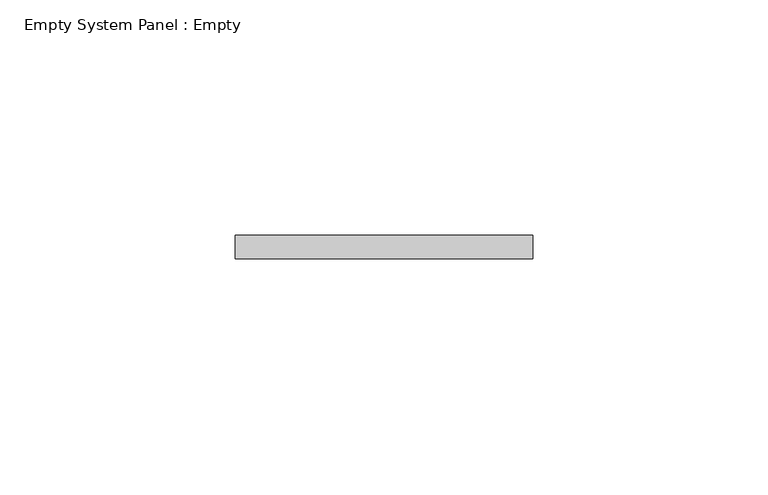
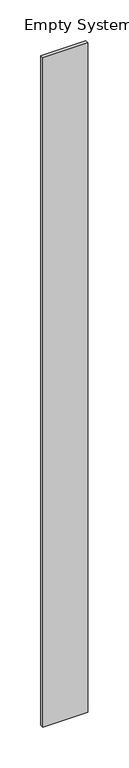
"""IFC4 building model written with IfcOpenShell, lengths in millimetres: plate geometry, Empty System Panel : Empty."""

import ifcopenshell
import ifcopenshell.guid

model = None  # the IFC model being written
_history = None  # IfcOwnerHistory: only IFC2X3 demands one
_inside = {}  # id of a spatial element -> (the spatial element, [elements in it])
_under = {}  # id of a project, library or spatial element -> (it, [spatial elements below it])
_declared = {}  # id of a project -> (the project, [libraries it declares])
_typed = {}  # id of a type object -> (the type object, [elements of that type])
_made_of = {}  # id of a material, layer set ... -> (it, [elements and type objects made of it])


def new_model(schema):
    """Start an empty IFC model of exactly this schema.

    Asked for "IFC4X3", IfcOpenShell would pick the latest addendum, in which some entities
    have other attributes; the version numbers below select the first issue.
    IFC2X3 requires an IfcOwnerHistory on every rooted entity: one is made here for all.
    """
    global model, _history
    if schema == "IFC4X3":
        model = ifcopenshell.file(schema_version=(4, 3, 0, 0))
    else:
        model = ifcopenshell.file(schema=schema)
    _inside.clear()
    _under.clear()
    _declared.clear()
    _typed.clear()
    _made_of.clear()
    _history = None
    if model.schema == "IFC2X3":
        org = make("IfcOrganization", Name="unknown")
        user = make(
            "IfcPersonAndOrganization",
            ThePerson=make("IfcPerson", FamilyName="unknown"),
            TheOrganization=org,
        )
        app = make(
            "IfcApplication",
            ApplicationDeveloper=org,
            Version="unknown",
            ApplicationFullName="unknown",
            ApplicationIdentifier="unknown",
        )
        _history = make(
            "IfcOwnerHistory",
            OwningUser=user,
            OwningApplication=app,
            ChangeAction="ADDED",
            CreationDate=0,
        )
    return model


def make(cls, **values):
    """One entity of the class cls with the attributes given. An attribute that is None is left unset."""
    return model.create_entity(
        cls, **{name: value for name, value in values.items() if value is not None}
    )


def rooted(cls, **values):
    """An entity with a GlobalId (a new one), such as an element, a storey or a relation."""
    return make(cls, GlobalId=ifcopenshell.guid.new(), OwnerHistory=_history, **values)


def si_unit(unit_type, name, prefix=None):
    """IfcSIUnit, for example si_unit("LENGTHUNIT", "METRE", prefix="MILLI")."""
    return make("IfcSIUnit", UnitType=unit_type, Prefix=prefix, Name=name)


def assignment(units):
    """IfcUnitAssignment: the units of a project."""
    return None if units is None else make("IfcUnitAssignment", Units=units)


def point(xyz):
    """IfcCartesianPoint."""
    return None if xyz is None else make("IfcCartesianPoint", Coordinates=xyz)


def direction(xyz):
    """IfcDirection."""
    return None if xyz is None else make("IfcDirection", DirectionRatios=xyz)


def frame(location, z_axis=None, x_axis=None):
    """IfcAxis2Placement3D, a coordinate frame: its origin and axes. An axis left out is left unset."""
    return make(
        "IfcAxis2Placement3D",
        Location=point(location),
        Axis=direction(z_axis),
        RefDirection=direction(x_axis),
    )


def origin():
    """The frame at (0, 0, 0) with its axes left unset."""
    return frame((0.0, 0.0, 0.0))


def origin_with_axes():
    """The frame at (0, 0, 0) with the z axis (0, 0, 1) and the x axis (1, 0, 0) written out."""
    return frame((0.0, 0.0, 0.0), z_axis=(0.0, 0.0, 1.0), x_axis=(1.0, 0.0, 0.0))


def place(relative_to, where):
    """IfcLocalPlacement: puts the frame where relative to a parent placement (None: the world)."""
    return make(
        "IfcLocalPlacement", PlacementRelTo=relative_to, RelativePlacement=where
    )


def context(
    kind, dimensions, precision=None, world=None, true_north=None, identifier=None
):
    """IfcGeometricRepresentationContext, for example the 3D "Model" context."""
    return make(
        "IfcGeometricRepresentationContext",
        ContextIdentifier=identifier,
        ContextType=kind,
        CoordinateSpaceDimension=dimensions,
        Precision=precision,
        WorldCoordinateSystem=world,
        TrueNorth=true_north,
    )


def project(units=None, contexts=None):
    """IfcProject with its units and contexts."""
    return rooted(
        "IfcProject",
        Name="project",
        RepresentationContexts=contexts,
        UnitsInContext=assignment(units),
    )


def spatial(cls, under=None, at=None, **own):
    """A site, building, storey or space (cls), placed at a placement, below another one or the project."""
    s = rooted(cls, ObjectPlacement=at, **own)
    if under is not None:
        _under.setdefault(under.id(), (under, []))[1].append(s)
    return s


def polyline(points):
    """IfcPolyline through the points."""
    return make("IfcPolyline", Points=[point(p) for p in points])


def outline(outer, holes=None, kind="AREA"):
    """IfcArbitraryClosedProfileDef: a profile drawn as a closed curve; with holes, ...WithVoids."""
    if holes is None:
        return make("IfcArbitraryClosedProfileDef", ProfileType=kind, OuterCurve=outer)
    return make(
        "IfcArbitraryProfileDefWithVoids",
        ProfileType=kind,
        OuterCurve=outer,
        InnerCurves=holes,
    )


def extrude(swept, where, along, depth):
    """IfcExtrudedAreaSolid: the profile swept, set in the frame where, extruded along a direction by depth."""
    return make(
        "IfcExtrudedAreaSolid",
        SweptArea=swept,
        Position=where,
        ExtrudedDirection=direction(along),
        Depth=depth,
    )


def shape(context_of_items, identifier, shape_type, items):
    """IfcShapeRepresentation: the items that make up one representation, for example the "Body"."""
    return make(
        "IfcShapeRepresentation",
        ContextOfItems=context_of_items,
        RepresentationIdentifier=identifier,
        RepresentationType=shape_type,
        Items=items,
    )


def source(mapping_origin, context_of_items, identifier, shape_type, items):
    """IfcRepresentationMap: a shape defined once, which mapped items show again and again."""
    return make(
        "IfcRepresentationMap",
        MappingOrigin=mapping_origin,
        MappedRepresentation=shape(context_of_items, identifier, shape_type, items),
    )


def transform(
    local_origin,
    x_axis=None,
    y_axis=None,
    z_axis=None,
    scale=None,
    scale2=None,
    scale3=None,
    uniform=True,
):
    """IfcCartesianTransformationOperator3D, or its non-uniform kind. x_axis, y_axis, z_axis: its Axis1, 2, 3."""
    if uniform:
        return make(
            "IfcCartesianTransformationOperator3D",
            Axis1=direction(x_axis),
            Axis2=direction(y_axis),
            LocalOrigin=point(local_origin),
            Scale=scale,
            Axis3=direction(z_axis),
        )
    return make(
        "IfcCartesianTransformationOperator3DnonUniform",
        Axis1=direction(x_axis),
        Axis2=direction(y_axis),
        LocalOrigin=point(local_origin),
        Scale=scale,
        Axis3=direction(z_axis),
        Scale2=scale2,
        Scale3=scale3,
    )


def mapped(mapping_source, mapping_target):
    """IfcMappedItem: shows the shape of a source again, moved by a transform."""
    return make(
        "IfcMappedItem", MappingSource=mapping_source, MappingTarget=mapping_target
    )


def made_of(thing, what):
    """Note that an element or type object is made of a material, layer set ...; save() writes the relation."""
    if what is not None:
        _made_of.setdefault(what.id(), (what, []))[1].append(thing)
    return thing


def element(
    cls,
    number,
    at=None,
    inside=None,
    cuts=None,
    type_object=None,
    material=None,
    context=None,
    identifier="Body",
    shape_type=None,
    held_by="IfcProductDefinitionShape",
    body=None,
    shapes=None,
    **own,
):
    """One element of the class cls, such as IfcWall. Its Tag is "e" and its number.

    at: its placement. inside: the storey or other place that contains it. cuts: it is an
    opening in that element (IfcRelVoidsElement). A single representation is given by context,
    identifier, shape_type and body (its items); several are given by shapes. held_by: the class
    of the entity that holds the representations. save() writes the other relations.
    """
    e = rooted(cls, Tag="e%d" % number, ObjectPlacement=at, **own)
    if body is not None:
        shapes = [shape(context, identifier, shape_type, body)]
    if shapes is not None:
        e.Representation = make(held_by, Representations=shapes)
    if inside is not None:
        _inside.setdefault(inside.id(), (inside, []))[1].append(e)
    if cuts is not None:
        rooted(
            "IfcRelVoidsElement", RelatingBuildingElement=cuts, RelatedOpeningElement=e
        )
    if type_object is not None:
        _typed.setdefault(type_object.id(), (type_object, []))[1].append(e)
    return made_of(e, material)


def aggregate(whole, parts):
    """IfcRelAggregates: a whole, such as a stair, and the parts it consists of."""
    return rooted("IfcRelAggregates", RelatingObject=whole, RelatedObjects=parts)


def save(model, path):
    """Write the relations noted so far, then the file.

    IfcRelAggregates (storeys below a building ...), IfcRelContainedInSpatialStructure (elements
    in a storey), IfcRelDefinesByType, IfcRelAssociatesMaterial and IfcRelDeclares: one each for
    every whole, place, type object, material and project.
    """
    for whole, parts in _under.values():
        aggregate(whole, parts)
    for where, things in _inside.values():
        rooted(
            "IfcRelContainedInSpatialStructure",
            RelatedElements=things,
            RelatingStructure=where,
        )
    for kind, things in _typed.values():
        rooted("IfcRelDefinesByType", RelatedObjects=things, RelatingType=kind)
    for what, things in _made_of.values():
        rooted("IfcRelAssociatesMaterial", RelatedObjects=things, RelatingMaterial=what)
    for by, libraries in _declared.values():
        rooted("IfcRelDeclares", RelatingContext=by, RelatedDefinitions=libraries)
    model.write(path)


def empty_system_panel_empty_e98d4713(model_context):
    return source(origin(), model_context, "Body", "SweptSolid", [
        extrude(outline(polyline([(31.6470541, 97.5), (-31.6470541, 97.5), (-31.6470541, 102.5), (31.6470541, 102.5), (31.6470541, 97.5)])), origin_with_axes(), (0.0, 0.0, 1.0), 1000.0),
    ])


if __name__ == "__main__":
    model = new_model("IFC4")
    model_context = context("Model", 3, world=origin())
    ifc_project = project(units=[si_unit("LENGTHUNIT", "METRE", prefix="MILLI")], contexts=[model_context])
    site = spatial("IfcSite", under=ifc_project)
    building = spatial("IfcBuilding", under=site)
    placement = place(None, origin())
    empty_system_panel_empty_shape = empty_system_panel_empty_e98d4713(model_context)
    element("IfcPlate", 1, ObjectType="Empty System Panel : Empty", at=placement, inside=building, context=model_context, shape_type="MappedRepresentation", body=[
        mapped(empty_system_panel_empty_shape, transform((0.0, 0.0, 0.0), x_axis=(1.0, 0.0, 0.0), y_axis=(0.0, 1.0, 0.0), z_axis=(0.0, 0.0, 1.0))),
    ])
    save(model, "model.ifc")
